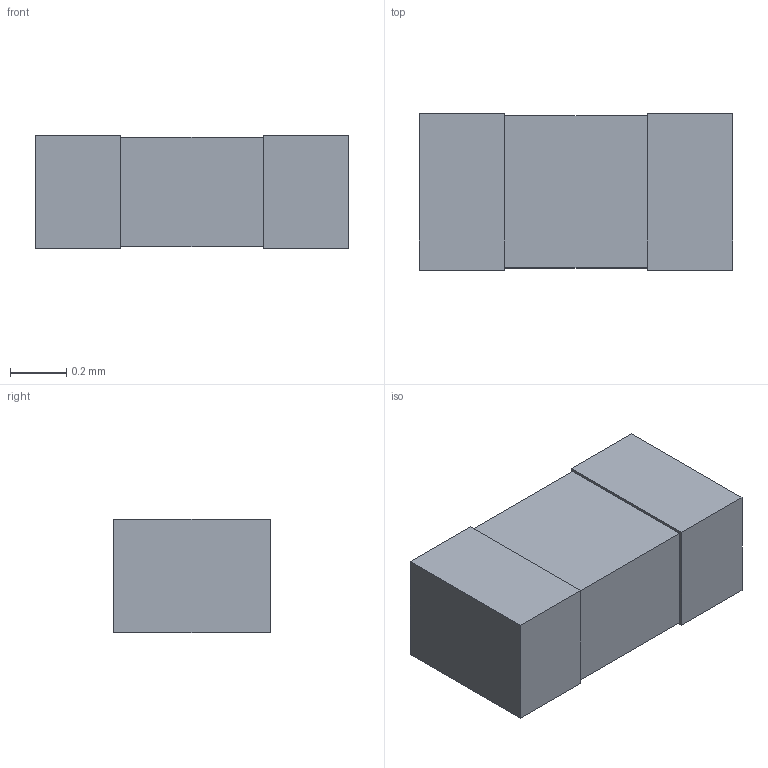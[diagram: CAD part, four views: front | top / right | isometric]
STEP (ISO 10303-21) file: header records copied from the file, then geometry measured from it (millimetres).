
FILE_DESCRIPTION(('STEP AP214'),'1');
FILE_NAME('BO_CR0402-M','2020-10-18T17:27:55',(''),(''),'','','');
FILE_SCHEMA(('AUTOMOTIVE_DESIGN'));
Length unit declared in the file: millimetre
Products named in the file (1): product
Bounding box: 1.12 x 0.56 x 0.41 mm (x, y, z)
Volume: 0.2 mm3; surface area: 3.5 mm2
Topology: 3 solids, 3 shells, 18 faces, 36 edges, 24 vertices
Faces by surface type: plane 18
Entity records: 489 total; most frequent: DIRECTION 74, ORIENTED_EDGE 72, CARTESIAN_POINT 43, EDGE_CURVE 36, LINE 36, VECTOR 36, VERTEX_POINT 24, AXIS2_PLACEMENT_3D 19
